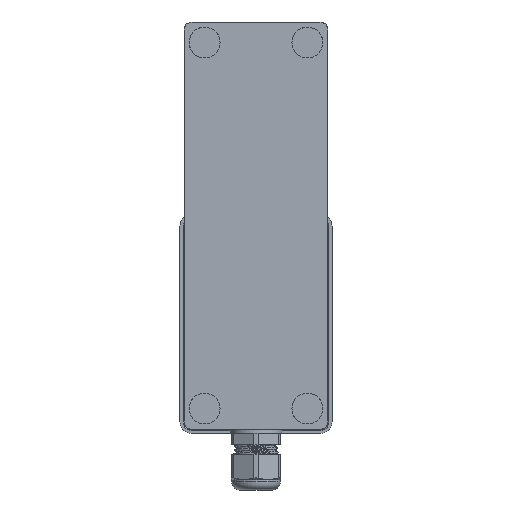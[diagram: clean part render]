
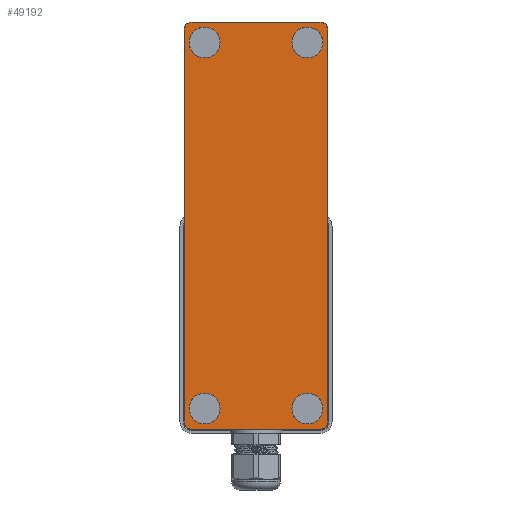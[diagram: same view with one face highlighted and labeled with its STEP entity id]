
A CAD part, front view. The second image highlights one B-rep face of the part: STEP entity #49192.
In plain terms, the highlighted planar face has unit normal (0, -1, 0).
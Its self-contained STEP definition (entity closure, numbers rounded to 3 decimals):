
#45041=CARTESIAN_POINT('',(-31.,3.5,0.));
#45042=VERTEX_POINT('',#45041);
#45057=CARTESIAN_POINT('',(31.,3.5,0.));
#45058=VERTEX_POINT('',#45057);
#45065=CARTESIAN_POINT('',(-31.,3.5,0.));
#45066=DIRECTION('',(1.0,0.0,0.0));
#45067=VECTOR('',#45066,62.0);
#45068=LINE('',#45065,#45067);
#45069=EDGE_CURVE('',#45042,#45058,#45068,.T.);
#45090=CARTESIAN_POINT('',(-31.,3.5,198.0));
#45091=VERTEX_POINT('',#45090);
#45100=CARTESIAN_POINT('',(31.,3.5,198.0));
#45101=VERTEX_POINT('',#45100);
#45102=CARTESIAN_POINT('',(-31.,3.5,198.0));
#45103=DIRECTION('',(1.0,0.0,0.0));
#45104=VECTOR('',#45103,62.0);
#45105=LINE('',#45102,#45104);
#45106=EDGE_CURVE('',#45091,#45101,#45105,.T.);
#46511=CARTESIAN_POINT('',(35.,3.5,194.));
#46512=VERTEX_POINT('',#46511);
#46513=CARTESIAN_POINT('',(31.,3.5,194.));
#46514=DIRECTION('',(0.,1.0,0.));
#46515=DIRECTION('',(0.707,0.,0.707));
#46516=AXIS2_PLACEMENT_3D('',#46513,#46514,#46515);
#46517=CIRCLE('',#46516,4.0);
#46518=EDGE_CURVE('',#45101,#46512,#46517,.T.);
#46554=CARTESIAN_POINT('',(-35.,3.5,194.));
#46555=VERTEX_POINT('',#46554);
#46562=CARTESIAN_POINT('',(-31.,3.5,194.));
#46563=DIRECTION('',(0.,1.0,0.));
#46564=DIRECTION('',(-0.707,0.,0.707));
#46565=AXIS2_PLACEMENT_3D('',#46562,#46563,#46564);
#46566=CIRCLE('',#46565,4.0);
#46567=EDGE_CURVE('',#46555,#45091,#46566,.T.);
#46639=CARTESIAN_POINT('',(35.,3.5,4.));
#46640=VERTEX_POINT('',#46639);
#46641=CARTESIAN_POINT('',(35.,3.5,4.0));
#46642=DIRECTION('',(0.0,0.0,1.0));
#46643=VECTOR('',#46642,190.0);
#46644=LINE('',#46641,#46643);
#46645=EDGE_CURVE('',#46640,#46512,#46644,.T.);
#46710=CARTESIAN_POINT('',(31.,3.5,4.));
#46711=DIRECTION('',(0.,1.0,0.));
#46712=DIRECTION('',(0.707,0.,-0.707));
#46713=AXIS2_PLACEMENT_3D('',#46710,#46711,#46712);
#46714=CIRCLE('',#46713,4.0);
#46715=EDGE_CURVE('',#46640,#45058,#46714,.T.);
#46752=CARTESIAN_POINT('',(-35.,3.5,4.));
#46753=VERTEX_POINT('',#46752);
#46760=CARTESIAN_POINT('',(-35.,3.5,194.0));
#46761=DIRECTION('',(0.0,0.0,-1.0));
#46762=VECTOR('',#46761,190.);
#46763=LINE('',#46760,#46762);
#46764=EDGE_CURVE('',#46555,#46753,#46763,.T.);
#46822=CARTESIAN_POINT('',(-31.,3.5,4.));
#46823=DIRECTION('',(0.,1.0,0.));
#46824=DIRECTION('',(-0.707,0.,-0.707));
#46825=AXIS2_PLACEMENT_3D('',#46822,#46823,#46824);
#46826=CIRCLE('',#46825,4.0);
#46827=EDGE_CURVE('',#45042,#46753,#46826,.T.);
#49133=CARTESIAN_POINT('',(0.,3.5,60.933));
#49134=DIRECTION('',(0.0,-1.0,0.0));
#49135=DIRECTION('',(-1.0,0.0,0.0));
#49136=AXIS2_PLACEMENT_3D('',#49133,#49134,#49135);
#49137=PLANE('',#49136);
#49138=ORIENTED_EDGE('',*,*,#46827,.F.);
#49139=ORIENTED_EDGE('',*,*,#45069,.T.);
#49140=ORIENTED_EDGE('',*,*,#46715,.F.);
#49141=ORIENTED_EDGE('',*,*,#46645,.T.);
#49142=ORIENTED_EDGE('',*,*,#46518,.F.);
#49143=ORIENTED_EDGE('',*,*,#45106,.F.);
#49144=ORIENTED_EDGE('',*,*,#46567,.F.);
#49145=ORIENTED_EDGE('',*,*,#46764,.T.);
#49146=EDGE_LOOP('',(#49138,#49139,#49140,#49141,#49142,#49143,#49144,#49145));
#49147=FACE_OUTER_BOUND('',#49146,.T.);
#49148=CARTESIAN_POINT('',(-31.485,3.5,6.232));
#49149=VERTEX_POINT('',#49148);
#49150=CARTESIAN_POINT('',(-25.,3.5,10.));
#49151=DIRECTION('',(0.,-1.0,0.));
#49152=DIRECTION('',(0.865,0.,0.502));
#49153=AXIS2_PLACEMENT_3D('',#49150,#49151,#49152);
#49154=CIRCLE('',#49153,7.5);
#49155=EDGE_CURVE('',#49149,#49149,#49154,.T.);
#49156=ORIENTED_EDGE('',*,*,#49155,.F.);
#49157=EDGE_LOOP('',(#49156));
#49158=FACE_BOUND('',#49157,.T.);
#49159=CARTESIAN_POINT('',(18.258,3.5,184.714));
#49160=VERTEX_POINT('',#49159);
#49161=CARTESIAN_POINT('',(25.,3.5,188.0));
#49162=DIRECTION('',(0.,-1.,0.));
#49163=DIRECTION('',(0.899,0.,0.438));
#49164=AXIS2_PLACEMENT_3D('',#49161,#49162,#49163);
#49165=CIRCLE('',#49164,7.5);
#49166=EDGE_CURVE('',#49160,#49160,#49165,.T.);
#49167=ORIENTED_EDGE('',*,*,#49166,.F.);
#49168=EDGE_LOOP('',(#49167));
#49169=FACE_BOUND('',#49168,.T.);
#49170=CARTESIAN_POINT('',(-31.573,3.5,184.389));
#49171=VERTEX_POINT('',#49170);
#49172=CARTESIAN_POINT('',(-25.,3.5,188.));
#49173=DIRECTION('',(0.,-1.0,0.));
#49174=DIRECTION('',(0.876,0.,0.482));
#49175=AXIS2_PLACEMENT_3D('',#49172,#49173,#49174);
#49176=CIRCLE('',#49175,7.5);
#49177=EDGE_CURVE('',#49171,#49171,#49176,.T.);
#49178=ORIENTED_EDGE('',*,*,#49177,.F.);
#49179=EDGE_LOOP('',(#49178));
#49180=FACE_BOUND('',#49179,.T.);
#49181=CARTESIAN_POINT('',(18.431,3.5,6.38));
#49182=VERTEX_POINT('',#49181);
#49183=CARTESIAN_POINT('',(25.,3.5,10.));
#49184=DIRECTION('',(0.,-1.0,0.));
#49185=DIRECTION('',(0.876,0.,0.483));
#49186=AXIS2_PLACEMENT_3D('',#49183,#49184,#49185);
#49187=CIRCLE('',#49186,7.5);
#49188=EDGE_CURVE('',#49182,#49182,#49187,.T.);
#49189=ORIENTED_EDGE('',*,*,#49188,.F.);
#49190=EDGE_LOOP('',(#49189));
#49191=FACE_BOUND('',#49190,.T.);
#49192=ADVANCED_FACE('',(#49147,#49158,#49169,#49180,#49191),#49137,.T.);
